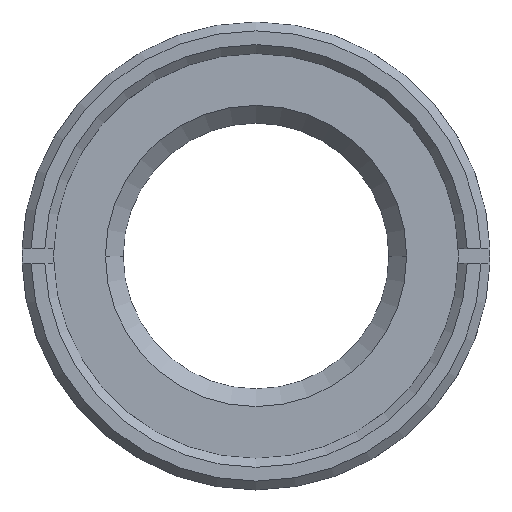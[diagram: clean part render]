
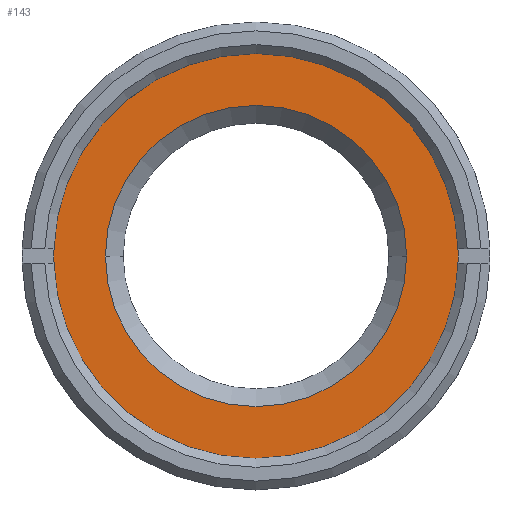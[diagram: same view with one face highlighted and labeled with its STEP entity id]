
A CAD part, top view. The second image highlights one B-rep face of the part: STEP entity #143.
In plain terms, the highlighted planar face has unit normal (0, 0, 1).
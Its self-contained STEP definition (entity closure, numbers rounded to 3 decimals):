
#5 = CARTESIAN_POINT ( 'NONE',  ( -8.5, 0., 1. ) ) ;
#41 = DIRECTION ( 'NONE',  ( 0., 0., 1. ) ) ;
#46 = VERTEX_POINT ( 'NONE', #709 ) ;
#49 = FACE_OUTER_BOUND ( 'NONE', #272, .T. ) ;
#63 = CARTESIAN_POINT ( 'NONE',  ( 11.43, 0., 1. ) ) ;
#83 = EDGE_CURVE ( 'NONE', #46, #627, #665, .T. ) ;
#98 = DIRECTION ( 'NONE',  ( 0., 0., -1. ) ) ;
#102 = EDGE_CURVE ( 'NONE', #287, #430, #633, .T. ) ;
#143 = ADVANCED_FACE ( 'NONE', ( #268, #49 ), #446, .T. ) ;
#154 = CARTESIAN_POINT ( 'NONE',  ( 0., 0., 1. ) ) ;
#174 = AXIS2_PLACEMENT_3D ( 'NONE', #680, #270, #263 ) ;
#181 = DIRECTION ( 'NONE',  ( 0., 0., -1. ) ) ;
#193 = EDGE_CURVE ( 'NONE', #627, #46, #376, .T. ) ;
#214 = AXIS2_PLACEMENT_3D ( 'NONE', #500, #41, #331 ) ;
#263 = DIRECTION ( 'NONE',  ( 1., 0., 0. ) ) ;
#268 = FACE_BOUND ( 'NONE', #323, .T. ) ;
#270 = DIRECTION ( 'NONE',  ( 0., 0., 1. ) ) ;
#272 = EDGE_LOOP ( 'NONE', ( #600, #612 ) ) ;
#287 = VERTEX_POINT ( 'NONE', #5 ) ;
#301 = DIRECTION ( 'NONE',  ( 1., 0., 0. ) ) ;
#323 = EDGE_LOOP ( 'NONE', ( #705, #586 ) ) ;
#328 = DIRECTION ( 'NONE',  ( 1., 0., 0. ) ) ;
#331 = DIRECTION ( 'NONE',  ( 1., 0., 0. ) ) ;
#340 = AXIS2_PLACEMENT_3D ( 'NONE', #726, #98, #328 ) ;
#376 = CIRCLE ( 'NONE', #214, 11.43 ) ;
#378 = CIRCLE ( 'NONE', #599, 8.5 ) ;
#383 = DIRECTION ( 'NONE',  ( 1., 0., 0. ) ) ;
#414 = AXIS2_PLACEMENT_3D ( 'NONE', #154, #617, #383 ) ;
#430 = VERTEX_POINT ( 'NONE', #521 ) ;
#446 = PLANE ( 'NONE',  #174 ) ;
#469 = CARTESIAN_POINT ( 'NONE',  ( 0., 0., 1. ) ) ;
#500 = CARTESIAN_POINT ( 'NONE',  ( 0., 0., 1. ) ) ;
#521 = CARTESIAN_POINT ( 'NONE',  ( 8.5, 0., 1. ) ) ;
#586 = ORIENTED_EDGE ( 'NONE', *, *, #102, .T. ) ;
#599 = AXIS2_PLACEMENT_3D ( 'NONE', #469, #181, #301 ) ;
#600 = ORIENTED_EDGE ( 'NONE', *, *, #193, .T. ) ;
#612 = ORIENTED_EDGE ( 'NONE', *, *, #83, .T. ) ;
#617 = DIRECTION ( 'NONE',  ( 0., 0., 1. ) ) ;
#627 = VERTEX_POINT ( 'NONE', #63 ) ;
#633 = CIRCLE ( 'NONE', #340, 8.5 ) ;
#665 = CIRCLE ( 'NONE', #414, 11.43 ) ;
#680 = CARTESIAN_POINT ( 'NONE',  ( 0., 0., 1. ) ) ;
#697 = EDGE_CURVE ( 'NONE', #430, #287, #378, .T. ) ;
#705 = ORIENTED_EDGE ( 'NONE', *, *, #697, .T. ) ;
#709 = CARTESIAN_POINT ( 'NONE',  ( -11.43, 0., 1. ) ) ;
#726 = CARTESIAN_POINT ( 'NONE',  ( 0., 0., 1. ) ) ;
